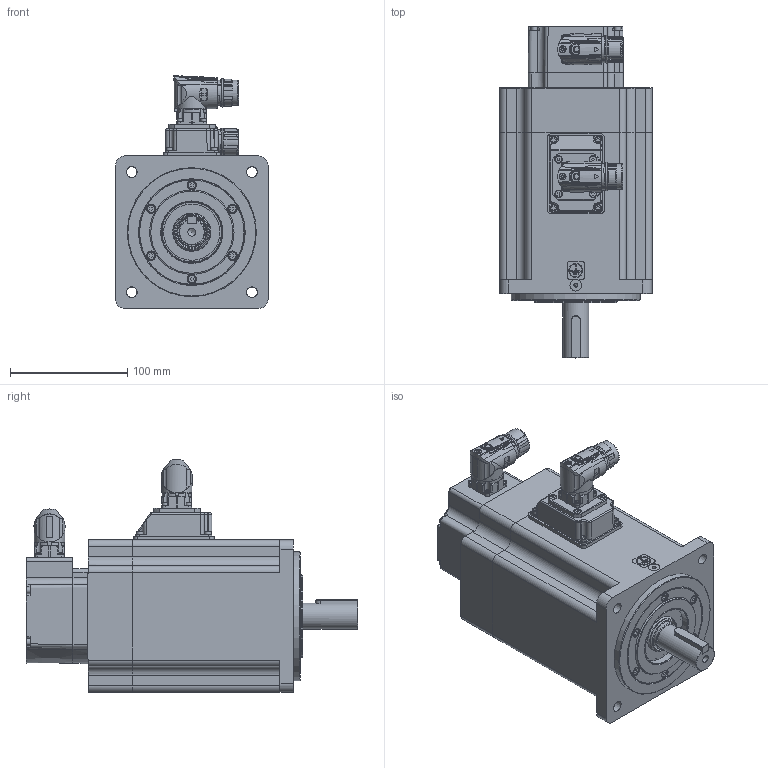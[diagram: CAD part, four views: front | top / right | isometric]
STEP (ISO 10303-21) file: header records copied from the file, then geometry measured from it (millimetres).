
FILE_DESCRIPTION( ( 'Unknown' ), '1' );
FILE_NAME( 'U:/05_Progetto TCE/010-TCE motor drawings/TCE130/Vuoti/TCE130 5H XX 3 A1 1 C2.stp', 'Unknown', ( 'Unknown' ), ( 'Unknown' ), 'PSStep 17.0.49', 'Unknown', ' ' );
FILE_SCHEMA( ( 'AUTOMOTIVE_DESIGN { 1 0 10303 214 1 1 1 1 }' ) );
Length unit declared in the file: millimetre
Products named in the file (13): 003103001510
Bounding box: 130.3 x 283 x 198.5 mm (x, y, z)
Volume: 1242983.2 mm3; surface area: 376184.7 mm2
Topology: 13 solids, 83 shells, 2990 faces, 7473 edges, 4821 vertices
Faces by surface type: plane 1447, cylinder 743, cone 292, bspline 230, torus 159, sphere 81, extrusion 38
Full cylindrical faces by diameter (mm): 0.5 x1, 1 x21, 1.2 x17, 1.4 x4, 2 x4, 2.013 x4, 2.2 x2, 2.459 x23, 2.5 x10, 2.6 x4, 2.8 x4, 3 x28, 3.242 x30, 3.5 x8, 4 x15, 4.134 x8, 4.4 x4, 4.5 x12, 4.7 x4, 5 x8, 5.5 x19, 5.8 x1, 5.9 x2, 6.647 x2, 6.8 x1, 7 x10, 8 x14, 8.5 x8, 10 x1, 10.5 x8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
Entity records: 123712 total; most frequent: CARTESIAN_POINT 37682, DIRECTION 13202, ORIENTED_EDGE 12802, EDGE_CURVE 6401, AXIS2_PLACEMENT_3D 4958, VERTEX_POINT 4542, EDGE_LOOP 3992, FACE_OUTER_BOUND 3466
